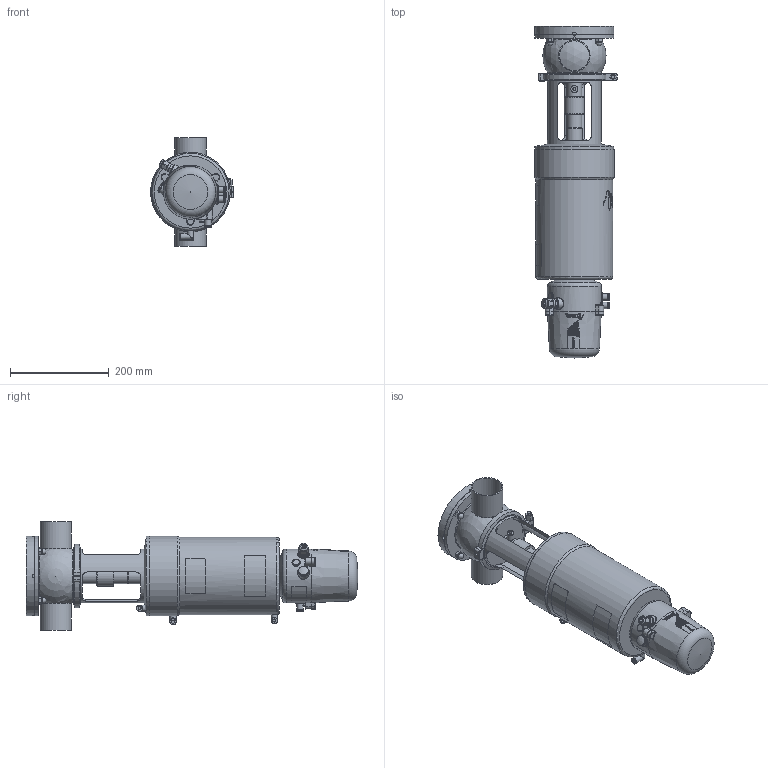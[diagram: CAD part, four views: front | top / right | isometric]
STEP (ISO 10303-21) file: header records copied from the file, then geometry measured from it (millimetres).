
FILE_DESCRIPTION (( 'STEP AP214' ), '1' );
FILE_NAME ('INNOVA T T W OD 2½ & C-TOP S_10.252.16.0008.STEP', '2024-08-20T12:22:55', ( '' ), ( '' ), 'SwSTEP 2.0', 'SolidWorks 2023', '' );
FILE_SCHEMA (( 'AUTOMOTIVE_DESIGN' ));
Length unit declared in the file: millimetre
Products named in the file (7): 10.248.15.0003_DIN 065 _ OD 2½"; INNOVA T T W OD 2½ & C-TOP S_10.252.16.0008; 10.250.15.0002_Type T T2; 10.426.15.0001_C-TOP S - 3 EV; 10.252.15.0001_OD 2½"; 10.240.15.0001_DN 065; 10.240.15.0007_OD 2½"
Assembly tree (6 placements, depth 2):
  INNOVA T T W OD 2½ & C-TOP S_10.252.16.0008
    10.240.15.0007_OD 2½"
    10.248.15.0003_DIN 065 _ OD 2½"
    10.252.15.0001_OD 2½"
    10.250.15.0002_Type T T2
    10.240.15.0001_DN 065
    10.426.15.0001_C-TOP S - 3 EV
Bounding box: 167.5 x 671.13 x 220 mm (x, y, z)
Volume: 8434658.7 mm3; surface area: 564534.6 mm2
Topology: 6 solids, 6 shells, 1200 faces, 2887 edges, 1922 vertices
Faces by surface type: plane 417, cylinder 381, cone 196, bspline 162, torus 33, sphere 11
Full cylindrical faces by diameter (mm): 0.371 x17, 0.512 x16, 0.658 x16, 0.795 x16, 0.94 x15, 1.098 x15, 1.241 x13, 1.382 x13, 1.523 x11, 1.669 x10, 2.201 x1, 4.2 x2, 5 x1, 5.5 x2, 6 x5, 6.15 x3, 8 x3, 10 x1, 10.5 x3, 11 x4, 12 x1, 12.5 x13, 13 x6, 13.5 x2, 14 x2, 17 x3, 20 x2, 22 x2, 30.5 x2, 32 x1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
Entity records: 61562 total; most frequent: CARTESIAN_POINT 29311, ORIENTED_EDGE 4870, DIRECTION 4015, EDGE_CURVE 2435, VERTEX_POINT 1735, EDGE_LOOP 1698, AXIS2_PLACEMENT_3D 1627, FACE_OUTER_BOUND 1434
